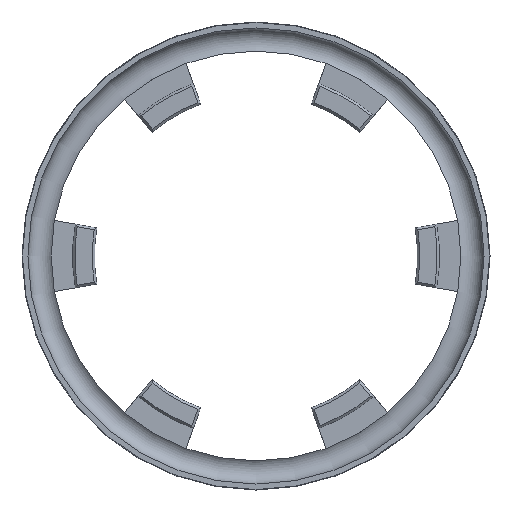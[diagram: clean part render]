
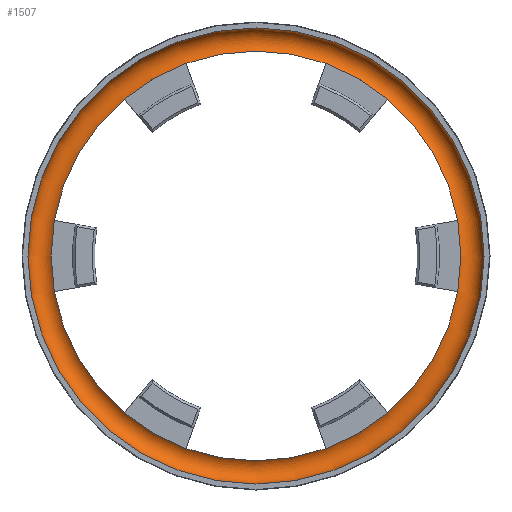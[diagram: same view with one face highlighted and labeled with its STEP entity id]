
A CAD part, front view. The second image highlights one B-rep face of the part: STEP entity #1507.
In plain terms, the highlighted toroidal (fillet/blend) face has major radius 47 mm and minor radius 3.1 mm.
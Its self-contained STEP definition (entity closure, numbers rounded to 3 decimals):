
#15=TOROIDAL_SURFACE('',#1694,47.,3.1);
#388=FACE_OUTER_BOUND('',#482,.T.);
#482=EDGE_LOOP('',(#1384,#1385,#1386,#1387,#1388,#1389));
#573=CIRCLE('',#1657,45.);
#574=CIRCLE('',#1658,45.);
#589=CIRCLE('',#1692,50.1);
#590=CIRCLE('',#1693,50.1);
#591=CIRCLE('',#1695,3.1);
#699=VERTEX_POINT('',#2598);
#700=VERTEX_POINT('',#2599);
#722=VERTEX_POINT('',#2701);
#723=VERTEX_POINT('',#2703);
#901=EDGE_CURVE('',#699,#700,#573,.T.);
#902=EDGE_CURVE('',#700,#699,#574,.T.);
#943=EDGE_CURVE('',#723,#722,#589,.T.);
#944=EDGE_CURVE('',#722,#723,#590,.T.);
#945=EDGE_CURVE('',#723,#700,#591,.T.);
#1384=ORIENTED_EDGE('',*,*,#944,.T.);
#1385=ORIENTED_EDGE('',*,*,#945,.T.);
#1386=ORIENTED_EDGE('',*,*,#901,.F.);
#1387=ORIENTED_EDGE('',*,*,#902,.F.);
#1388=ORIENTED_EDGE('',*,*,#945,.F.);
#1389=ORIENTED_EDGE('',*,*,#943,.T.);
#1507=ADVANCED_FACE('',(#388),#15,.F.);
#1657=AXIS2_PLACEMENT_3D('',#2600,#2032,#2033);
#1658=AXIS2_PLACEMENT_3D('',#2601,#2034,#2035);
#1692=AXIS2_PLACEMENT_3D('',#2704,#2121,#2122);
#1693=AXIS2_PLACEMENT_3D('',#2705,#2123,#2124);
#1694=AXIS2_PLACEMENT_3D('',#2706,#2125,#2126);
#1695=AXIS2_PLACEMENT_3D('',#2707,#2127,#2128);
#2032=DIRECTION('center_axis',(0.,-1.,0.));
#2033=DIRECTION('ref_axis',(1.,0.,0.));
#2034=DIRECTION('center_axis',(0.,-1.,0.));
#2035=DIRECTION('ref_axis',(1.,0.,0.));
#2121=DIRECTION('center_axis',(0.,-1.,0.));
#2122=DIRECTION('ref_axis',(1.,0.,0.));
#2123=DIRECTION('center_axis',(0.,-1.,0.));
#2124=DIRECTION('ref_axis',(1.,0.,0.));
#2125=DIRECTION('center_axis',(0.,-1.,0.));
#2126=DIRECTION('ref_axis',(0.,0.,-1.));
#2127=DIRECTION('center_axis',(-1.,0.,0.));
#2128=DIRECTION('ref_axis',(0.,0.,1.));
#2598=CARTESIAN_POINT('',(-45.,15.369,0.));
#2599=CARTESIAN_POINT('',(0.,15.369,45.));
#2600=CARTESIAN_POINT('Origin',(0.,15.369,0.));
#2601=CARTESIAN_POINT('Origin',(0.,15.369,0.));
#2701=CARTESIAN_POINT('',(-50.1,13.,0.));
#2703=CARTESIAN_POINT('',(0.,13.,50.1));
#2704=CARTESIAN_POINT('Origin',(0.,13.,0.));
#2705=CARTESIAN_POINT('Origin',(0.,13.,0.));
#2706=CARTESIAN_POINT('Origin',(0.,13.,0.));
#2707=CARTESIAN_POINT('Origin',(0.,13.,47.));
